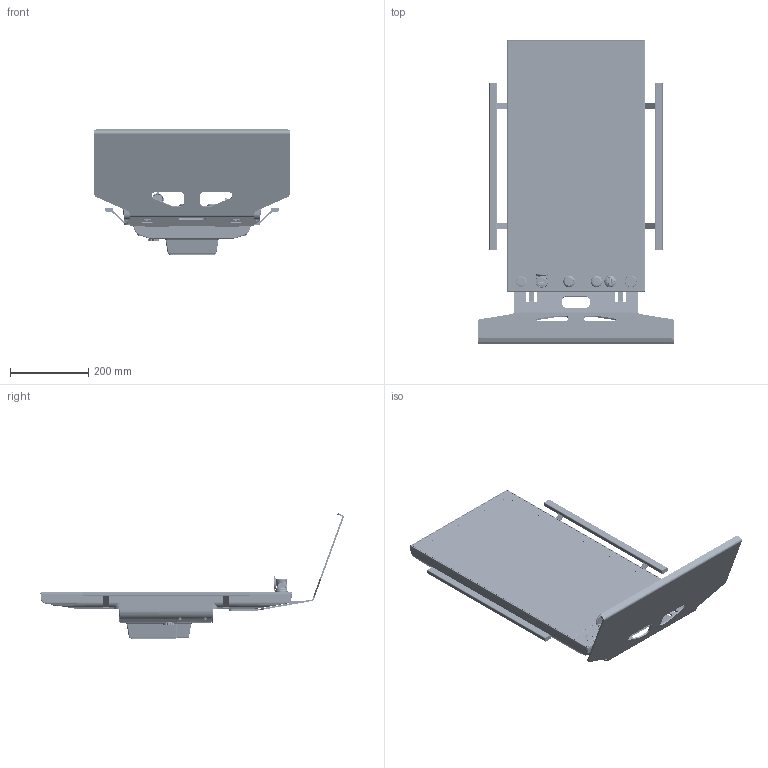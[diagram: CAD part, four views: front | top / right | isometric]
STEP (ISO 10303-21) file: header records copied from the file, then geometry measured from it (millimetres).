
FILE_DESCRIPTION (( 'STEP AP214' ), '1' );
FILE_NAME ('DIMA VK3500P-BA 24.0 VESA CON MANIGLIE E PORTA TASTIERA.STEP', '2021-09-14T09:46:34', ( '' ), ( '' ), 'SwSTEP 2.0', 'SolidWorks 2021', '' );
FILE_SCHEMA (( 'AUTOMOTIVE_DESIGN' ));
Length unit declared in the file: millimetre
Products named in the file (34): 26140000; 69111021; 59836032; 55455178; 55688019; 55600023; 56600718; 26020037; 26020043; 56236074; 48000080; 26020035; 26020033; 69111016; DIMA VK3500P-BA 24.0 VESA CON MANIGLIE E PORTA TASTIERA; 21507074; 56202012; 56636972_Default<A macchina>; 57836083_Default<A macchina>; 56600719; 93657770; 57342391; 69111017; 66811015; 66711011; kit_posteriore_vesa_usb3; 59836033SLDASM; 60290002; 57836084; 56636969; 56600724; 56202011; 50342043; 69111035
Assembly tree (56 placements, depth 4):
  DIMA VK3500P-BA 24.0 VESA CON MANIGLIE E PORTA TASTIERA
    56600719
      56600718
        56636969
        50342043
        55455178
      55600023
        55688019
        48000080
        21507074
    56600724
      56636972_Default<A macchina>
      57342391
    57836084
      57836083_Default<A macchina>
    kit_posteriore_vesa_usb3
    60290002  x6
    69111021  x2
    56236074  x2
    56202012  x4
      56202011
    66811015  x8
    69111035  x4
    69111017  x2
    69111016  x2
    66711011  x2
    59836033SLDASM
      59836032
    26020037
    26020033
    26020035
    26140000
    26020043
    93657770
Bounding box: 500 x 776.48 x 321.5 mm (x, y, z)
Volume: 2648863.8 mm3; surface area: 2194368.6 mm2
Topology: 94 solids, 219 shells, 10496 faces, 27849 edges, 17772 vertices
Faces by surface type: plane 4756, cylinder 2936, cone 1368, bspline 994, torus 325, sphere 117
Entity records: 474476 total; most frequent: CARTESIAN_POINT 180752, ORIENTED_EDGE 51013, DIRECTION 45130, EDGE_CURVE 26127, VERTEX_POINT 16761, AXIS2_PLACEMENT_3D 16112, LINE 12906, VECTOR 12906
